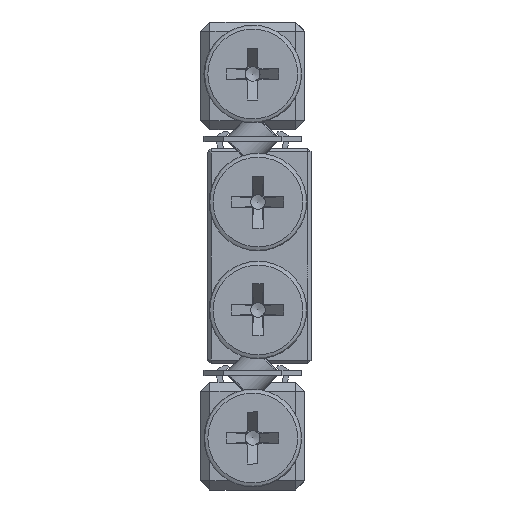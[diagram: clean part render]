
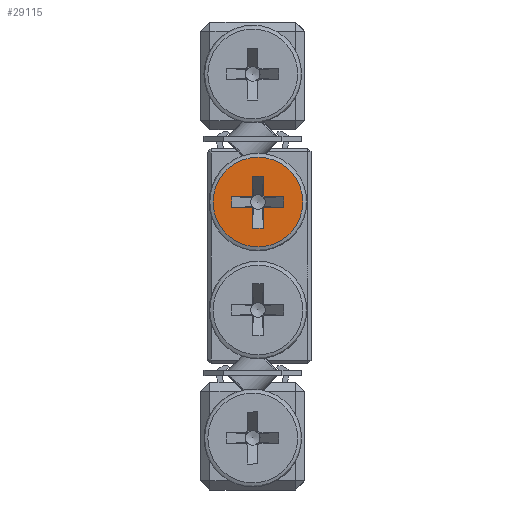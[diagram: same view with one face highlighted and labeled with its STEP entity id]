
A CAD part, left-side view. The second image highlights one B-rep face of the part: STEP entity #29115.
In plain terms, the highlighted planar face has unit normal (-1, 0, 0).
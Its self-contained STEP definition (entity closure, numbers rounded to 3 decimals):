
#132 = CARTESIAN_POINT ( 'NONE',  ( -152., 3.7, 3.602 ) ) ;
#528 = LINE ( 'NONE', #20026, #24997 ) ;
#1852 = AXIS2_PLACEMENT_3D ( 'NONE', #37026, #33020, #46079 ) ;
#2140 = VECTOR ( 'NONE', #9533, 1000. ) ;
#2352 = EDGE_CURVE ( 'NONE', #35930, #31027, #44773, .T. ) ;
#2581 = CARTESIAN_POINT ( 'NONE',  ( -152., 2.1, 3.75 ) ) ;
#2606 = CARTESIAN_POINT ( 'NONE',  ( -152., 6.1, 4.55 ) ) ;
#2823 = EDGE_CURVE ( 'NONE', #35930, #51548, #46008, .T. ) ;
#2957 = ORIENTED_EDGE ( 'NONE', *, *, #5899, .T. ) ;
#3102 = VERTEX_POINT ( 'NONE', #44117 ) ;
#4012 = DIRECTION ( 'NONE',  ( 0., 0., 1. ) ) ;
#4723 = ORIENTED_EDGE ( 'NONE', *, *, #2352, .T. ) ;
#4772 = CARTESIAN_POINT ( 'NONE',  ( -152., 7.85, 4.15 ) ) ;
#4872 = DIRECTION ( 'NONE',  ( 0., 0., 1. ) ) ;
#5591 = DIRECTION ( 'NONE',  ( -1., 0., 0. ) ) ;
#5645 = DIRECTION ( 'NONE',  ( 0., 0., 1. ) ) ;
#5843 = EDGE_CURVE ( 'NONE', #35912, #39333, #39068, .T. ) ;
#5899 = EDGE_CURVE ( 'NONE', #41910, #52280, #34465, .T. ) ;
#6198 = CARTESIAN_POINT ( 'NONE',  ( -152., 4.1, 0.7 ) ) ;
#6392 = DIRECTION ( 'NONE',  ( 0., 0., 1. ) ) ;
#6441 = CARTESIAN_POINT ( 'NONE',  ( -152., 3.7, 6.15 ) ) ;
#6651 = LINE ( 'NONE', #19197, #14292 ) ;
#6703 = DIRECTION ( 'NONE',  ( -1., 0., 0. ) ) ;
#7765 = VERTEX_POINT ( 'NONE', #26165 ) ;
#8212 = VERTEX_POINT ( 'NONE', #27425 ) ;
#8213 = ORIENTED_EDGE ( 'NONE', *, *, #43303, .T. ) ;
#8353 = CARTESIAN_POINT ( 'NONE',  ( -152., 4.5, 2.15 ) ) ;
#8524 = ORIENTED_EDGE ( 'NONE', *, *, #11838, .F. ) ;
#9042 = DIRECTION ( 'NONE',  ( 1., 0., 0. ) ) ;
#9533 = DIRECTION ( 'NONE',  ( 0., -1., 0. ) ) ;
#9719 = DIRECTION ( 'NONE',  ( 0., 0., 1. ) ) ;
#9921 = EDGE_CURVE ( 'NONE', #33364, #8212, #33101, .T. ) ;
#10210 = LINE ( 'NONE', #19278, #17286 ) ;
#11725 = DIRECTION ( 'NONE',  ( 0., 1., 0. ) ) ;
#11788 = EDGE_CURVE ( 'NONE', #35912, #51548, #51323, .T. ) ;
#11838 = EDGE_CURVE ( 'NONE', #51041, #52280, #10210, .T. ) ;
#12118 = CARTESIAN_POINT ( 'NONE',  ( -152., 3.7, 6.15 ) ) ;
#12223 = DIRECTION ( 'NONE',  ( -1., 0., 0. ) ) ;
#12368 = LINE ( 'NONE', #8353, #16867 ) ;
#12527 = DIRECTION ( 'NONE',  ( 0., 0., -1. ) ) ;
#12750 = CARTESIAN_POINT ( 'NONE',  ( -152., 4.1, 4.15 ) ) ;
#12779 = FACE_OUTER_BOUND ( 'NONE', #48388, .T. ) ;
#12857 = ORIENTED_EDGE ( 'NONE', *, *, #44816, .T. ) ;
#13520 = VERTEX_POINT ( 'NONE', #25103 ) ;
#13642 = CARTESIAN_POINT ( 'NONE',  ( -152., 4.1, 4.15 ) ) ;
#14292 = VECTOR ( 'NONE', #19713, 1000. ) ;
#14745 = DIRECTION ( 'NONE',  ( 0., -1., 0. ) ) ;
#15432 = EDGE_LOOP ( 'NONE', ( #46764, #2957, #8524, #8213, #46173, #12857, #40739, #42241, #44085, #41133, #51716, #44914, #25991, #15720, #27092, #4723 ) ) ;
#15720 = ORIENTED_EDGE ( 'NONE', *, *, #11788, .T. ) ;
#16215 = CARTESIAN_POINT ( 'NONE',  ( -152., 2.1, 3.75 ) ) ;
#16867 = VECTOR ( 'NONE', #4872, 1000. ) ;
#16979 = CIRCLE ( 'NONE', #46836, 0.678 ) ;
#17286 = VECTOR ( 'NONE', #35552, 1000. ) ;
#17428 = VERTEX_POINT ( 'NONE', #28686 ) ;
#18081 = EDGE_CURVE ( 'NONE', #41910, #31027, #16979, .T. ) ;
#19197 = CARTESIAN_POINT ( 'NONE',  ( -152., 6.1, 4.55 ) ) ;
#19278 = CARTESIAN_POINT ( 'NONE',  ( -152., 4.5, 2.15 ) ) ;
#19445 = CARTESIAN_POINT ( 'NONE',  ( -152., 4.5, 2.15 ) ) ;
#19713 = DIRECTION ( 'NONE',  ( 0., 0., -1. ) ) ;
#19861 = DIRECTION ( 'NONE',  ( 0., 0., -1. ) ) ;
#19900 = VECTOR ( 'NONE', #22178, 1000. ) ;
#20026 = CARTESIAN_POINT ( 'NONE',  ( -152., 4.5, 2.15 ) ) ;
#20072 = VECTOR ( 'NONE', #24222, 1000. ) ;
#20490 = CARTESIAN_POINT ( 'NONE',  ( -152., 4.1, 4.15 ) ) ;
#21467 = CARTESIAN_POINT ( 'NONE',  ( -152., 3.7, 4.698 ) ) ;
#21546 = VECTOR ( 'NONE', #14745, 1000. ) ;
#22178 = DIRECTION ( 'NONE',  ( 0., 1., 0. ) ) ;
#22300 = AXIS2_PLACEMENT_3D ( 'NONE', #4772, #9042, #12527 ) ;
#22597 = AXIS2_PLACEMENT_3D ( 'NONE', #12750, #29022, #45308 ) ;
#22788 = VECTOR ( 'NONE', #11725, 1000. ) ;
#23460 = VECTOR ( 'NONE', #19861, 1000. ) ;
#23739 = AXIS2_PLACEMENT_3D ( 'NONE', #26399, #5591, #6392 ) ;
#24222 = DIRECTION ( 'NONE',  ( 0., 1., 0. ) ) ;
#24855 = CIRCLE ( 'NONE', #1852, 3.45 ) ;
#24936 = CARTESIAN_POINT ( 'NONE',  ( -152., 2.1, 3.75 ) ) ;
#24997 = VECTOR ( 'NONE', #4012, 1000. ) ;
#25103 = CARTESIAN_POINT ( 'NONE',  ( -152., 4.648, 4.55 ) ) ;
#25991 = ORIENTED_EDGE ( 'NONE', *, *, #5843, .F. ) ;
#26165 = CARTESIAN_POINT ( 'NONE',  ( -152., 4.5, 4.698 ) ) ;
#26399 = CARTESIAN_POINT ( 'NONE',  ( -152., 4.1, 4.15 ) ) ;
#26974 = EDGE_CURVE ( 'NONE', #43023, #43023, #24855, .T. ) ;
#27092 = ORIENTED_EDGE ( 'NONE', *, *, #2823, .F. ) ;
#27386 = CARTESIAN_POINT ( 'NONE',  ( -152., 3.552, 4.55 ) ) ;
#27425 = CARTESIAN_POINT ( 'NONE',  ( -152., 4.5, 3.602 ) ) ;
#27724 = VERTEX_POINT ( 'NONE', #52082 ) ;
#27741 = LINE ( 'NONE', #35745, #22788 ) ;
#28435 = CARTESIAN_POINT ( 'NONE',  ( -152., 4.648, 3.75 ) ) ;
#28686 = CARTESIAN_POINT ( 'NONE',  ( -152., 3.7, 6.15 ) ) ;
#29022 = DIRECTION ( 'NONE',  ( -1., 0., 0. ) ) ;
#29053 = FACE_BOUND ( 'NONE', #15432, .T. ) ;
#29115 = ADVANCED_FACE ( 'NONE', ( #12779, #29053 ), #29312, .F. ) ;
#29312 = PLANE ( 'NONE',  #22300 ) ;
#30892 = VECTOR ( 'NONE', #9719, 1000. ) ;
#31027 = VERTEX_POINT ( 'NONE', #37730 ) ;
#31345 = EDGE_CURVE ( 'NONE', #17428, #27724, #46744, .T. ) ;
#31637 = EDGE_CURVE ( 'NONE', #7765, #27724, #528, .T. ) ;
#31984 = ORIENTED_EDGE ( 'NONE', *, *, #26974, .T. ) ;
#32293 = VECTOR ( 'NONE', #34192, 1000. ) ;
#32670 = LINE ( 'NONE', #12118, #23460 ) ;
#33020 = DIRECTION ( 'NONE',  ( -1., 0., 0. ) ) ;
#33101 = CIRCLE ( 'NONE', #23739, 0.678 ) ;
#33364 = VERTEX_POINT ( 'NONE', #28435 ) ;
#33949 = AXIS2_PLACEMENT_3D ( 'NONE', #13642, #6703, #5645 ) ;
#34192 = DIRECTION ( 'NONE',  ( 0., 0., -1. ) ) ;
#34465 = LINE ( 'NONE', #6441, #32293 ) ;
#34627 = EDGE_CURVE ( 'NONE', #17428, #39333, #32670, .T. ) ;
#35552 = DIRECTION ( 'NONE',  ( 0., -1., 0. ) ) ;
#35745 = CARTESIAN_POINT ( 'NONE',  ( -152., 2.1, 3.75 ) ) ;
#35912 = VERTEX_POINT ( 'NONE', #27386 ) ;
#35930 = VERTEX_POINT ( 'NONE', #2581 ) ;
#36448 = CARTESIAN_POINT ( 'NONE',  ( -152., 2.1, 4.55 ) ) ;
#36876 = EDGE_CURVE ( 'NONE', #41442, #13520, #46360, .T. ) ;
#37026 = CARTESIAN_POINT ( 'NONE',  ( -152., 4.1, 4.15 ) ) ;
#37730 = CARTESIAN_POINT ( 'NONE',  ( -152., 3.552, 3.75 ) ) ;
#38991 = EDGE_CURVE ( 'NONE', #7765, #13520, #52400, .T. ) ;
#39068 = CIRCLE ( 'NONE', #33949, 0.678 ) ;
#39333 = VERTEX_POINT ( 'NONE', #21467 ) ;
#40322 = CARTESIAN_POINT ( 'NONE',  ( -152., 3.7, 2.15 ) ) ;
#40739 = ORIENTED_EDGE ( 'NONE', *, *, #42685, .F. ) ;
#41133 = ORIENTED_EDGE ( 'NONE', *, *, #31637, .T. ) ;
#41442 = VERTEX_POINT ( 'NONE', #2606 ) ;
#41910 = VERTEX_POINT ( 'NONE', #132 ) ;
#42241 = ORIENTED_EDGE ( 'NONE', *, *, #36876, .T. ) ;
#42685 = EDGE_CURVE ( 'NONE', #41442, #3102, #6651, .T. ) ;
#42731 = CARTESIAN_POINT ( 'NONE',  ( -152., 3.7, 6.15 ) ) ;
#42884 = CARTESIAN_POINT ( 'NONE',  ( -152., 6.1, 4.55 ) ) ;
#43023 = VERTEX_POINT ( 'NONE', #6198 ) ;
#43303 = EDGE_CURVE ( 'NONE', #51041, #8212, #12368, .T. ) ;
#44085 = ORIENTED_EDGE ( 'NONE', *, *, #38991, .F. ) ;
#44117 = CARTESIAN_POINT ( 'NONE',  ( -152., 6.1, 3.75 ) ) ;
#44773 = LINE ( 'NONE', #16215, #20072 ) ;
#44816 = EDGE_CURVE ( 'NONE', #33364, #3102, #27741, .T. ) ;
#44914 = ORIENTED_EDGE ( 'NONE', *, *, #34627, .T. ) ;
#45308 = DIRECTION ( 'NONE',  ( 0., 0., 1. ) ) ;
#46008 = LINE ( 'NONE', #24936, #30892 ) ;
#46079 = DIRECTION ( 'NONE',  ( 0., 0., -1. ) ) ;
#46173 = ORIENTED_EDGE ( 'NONE', *, *, #9921, .F. ) ;
#46360 = LINE ( 'NONE', #42884, #2140 ) ;
#46744 = LINE ( 'NONE', #42731, #19900 ) ;
#46764 = ORIENTED_EDGE ( 'NONE', *, *, #18081, .F. ) ;
#46836 = AXIS2_PLACEMENT_3D ( 'NONE', #20490, #12223, #49588 ) ;
#48388 = EDGE_LOOP ( 'NONE', ( #31984 ) ) ;
#49588 = DIRECTION ( 'NONE',  ( 0., 0., 1. ) ) ;
#51041 = VERTEX_POINT ( 'NONE', #19445 ) ;
#51058 = CARTESIAN_POINT ( 'NONE',  ( -152., 6.1, 4.55 ) ) ;
#51323 = LINE ( 'NONE', #51058, #21546 ) ;
#51548 = VERTEX_POINT ( 'NONE', #36448 ) ;
#51716 = ORIENTED_EDGE ( 'NONE', *, *, #31345, .F. ) ;
#52082 = CARTESIAN_POINT ( 'NONE',  ( -152., 4.5, 6.15 ) ) ;
#52280 = VERTEX_POINT ( 'NONE', #40322 ) ;
#52400 = CIRCLE ( 'NONE', #22597, 0.678 ) ;
